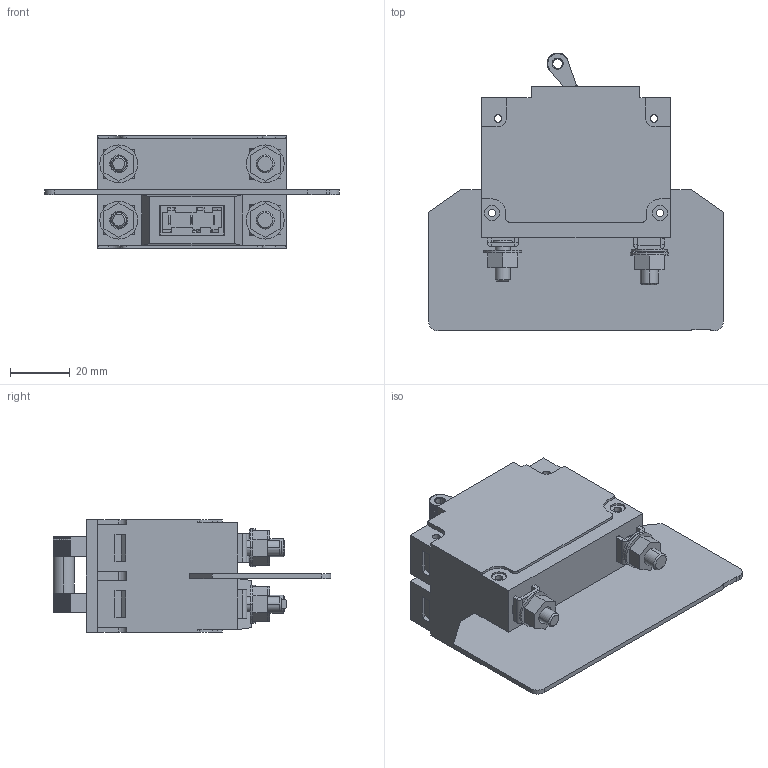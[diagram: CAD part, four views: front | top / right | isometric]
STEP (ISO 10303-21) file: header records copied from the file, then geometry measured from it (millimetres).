
FILE_DESCRIPTION((''),'2;1');
FILE_NAME('CR_MODEL_2P','2008-07-08T',('davidparker'),(''),'PRO/ENGINEER BY PARAMETRIC TECHNOLOGY CORPORATION, 2008010','PRO/ENGINEER BY PARAMETRIC TECHNOLOGY CORPORATION, 2008010','');
FILE_SCHEMA(('CONFIG_CONTROL_DESIGN'));
Products named in the file (1): CR_MODEL_2P
Bounding box: 99.06 x 93.38 x 37.8 mm (x, y, z)
Volume: 65652.5 mm3; surface area: 56607.7 mm2
Topology: 5 solids, 5 shells, 2730 faces, 7669 edges, 5005 vertices
Faces by surface type: plane 1981, cylinder 541, bspline 124, cone 56, torus 26, sphere 2
Entity records: 91558 total; most frequent: CARTESIAN_POINT 20134, ORIENTED_EDGE 15334, DIRECTION 14284, EDGE_CURVE 7667, VECTOR 5850, LINE 5850, VERTEX_POINT 5005, AXIS2_PLACEMENT_3D 4217
